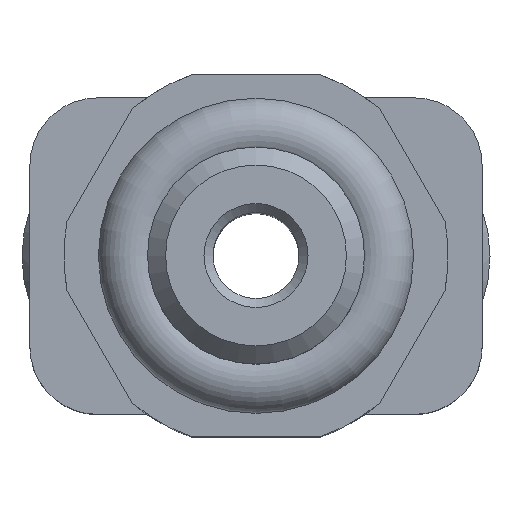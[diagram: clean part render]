
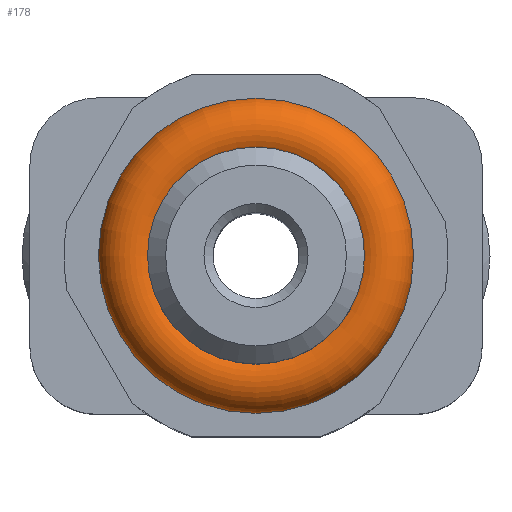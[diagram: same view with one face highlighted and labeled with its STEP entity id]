
A CAD part, top view. The second image highlights one B-rep face of the part: STEP entity #178.
In plain terms, the highlighted toroidal (fillet/blend) face has major radius 2.75 mm and minor radius 0.75 mm.
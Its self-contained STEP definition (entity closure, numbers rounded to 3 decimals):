
#178 = ADVANCED_FACE( '', ( #368, #369 ), #370, .T. );
#368 = FACE_OUTER_BOUND( '', #563, .T. );
#369 = FACE_OUTER_BOUND( '', #564, .T. );
#370 = TOROIDAL_SURFACE( '', #565, 2.75, 0.75 );
#563 = EDGE_LOOP( '', ( #1006 ) );
#564 = EDGE_LOOP( '', ( #1007 ) );
#565 = AXIS2_PLACEMENT_3D( '', #1008, #1009, #1010 );
#1006 = ORIENTED_EDGE( '', *, *, #1248, .F. );
#1007 = ORIENTED_EDGE( '', *, *, #1111, .T. );
#1008 = CARTESIAN_POINT( '', ( 0., 0., 2.85 ) );
#1009 = DIRECTION( '', ( 0., 0., 1. ) );
#1010 = DIRECTION( '', ( 0., -1., 0. ) );
#1111 = EDGE_CURVE( '', #1316, #1316, #1317, .T. );
#1248 = EDGE_CURVE( '', #1508, #1508, #1509, .T. );
#1316 = VERTEX_POINT( '', #1591 );
#1317 = CIRCLE( '', #1592, 3.485 );
#1508 = VERTEX_POINT( '', #1837 );
#1509 = CIRCLE( '', #1838, 2.015 );
#1591 = CARTESIAN_POINT( '', ( 0., -3.485, 3. ) );
#1592 = AXIS2_PLACEMENT_3D( '', #1901, #1902, #1903 );
#1837 = CARTESIAN_POINT( '', ( 0., -2.015, 3. ) );
#1838 = AXIS2_PLACEMENT_3D( '', #2081, #2082, #2083 );
#1901 = CARTESIAN_POINT( '', ( 0., 0., 3. ) );
#1902 = DIRECTION( '', ( 0., 0., 1. ) );
#1903 = DIRECTION( '', ( 0., -1., 0. ) );
#2081 = CARTESIAN_POINT( '', ( 0., 0., 3. ) );
#2082 = DIRECTION( '', ( 0., 0., 1. ) );
#2083 = DIRECTION( '', ( 0., -1., 0. ) );
